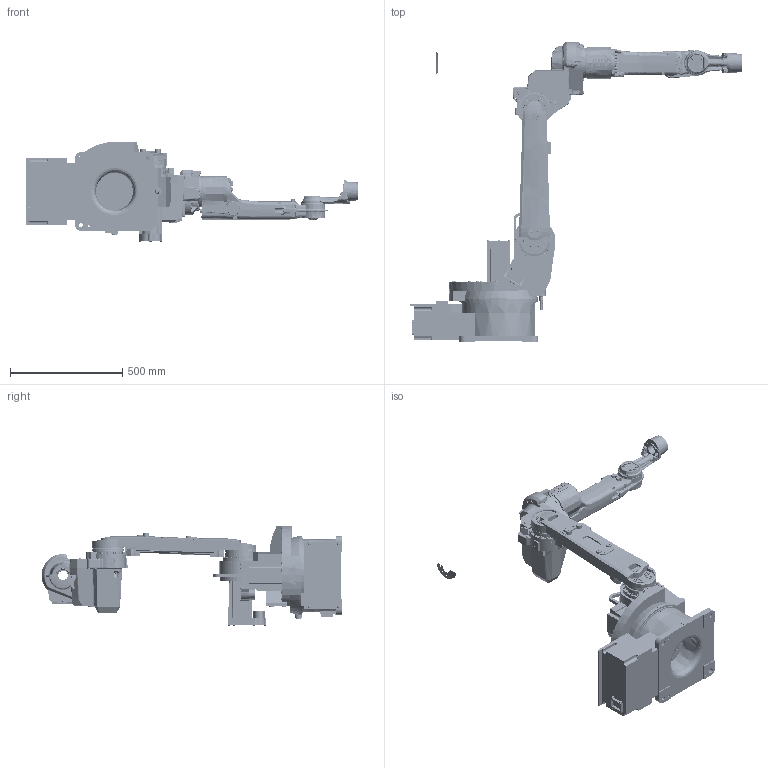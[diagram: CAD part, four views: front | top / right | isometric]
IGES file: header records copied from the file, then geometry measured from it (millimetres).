
Start section: SolidWorks IGES file using analytic representation for surfaces
Global section: file name: C:\2\Original\IRB1520ID_4_150__02_test_c.IGS; native system: SolidWorks 2010; preprocessor: SolidWorks 2010; author: CNWESUN5; date: 130409.130957; units: millimetre
Bounding box: 1477 x 1338.5 x 444.87 mm (x, y, z)
Surface area: 3853967.1 mm2 (no closed solid volume)
Topology: 0 solids, 0 shells, 4989 faces, 69482 edges, 69449 vertices
Faces by surface type: bspline 3295, revolution 1694
